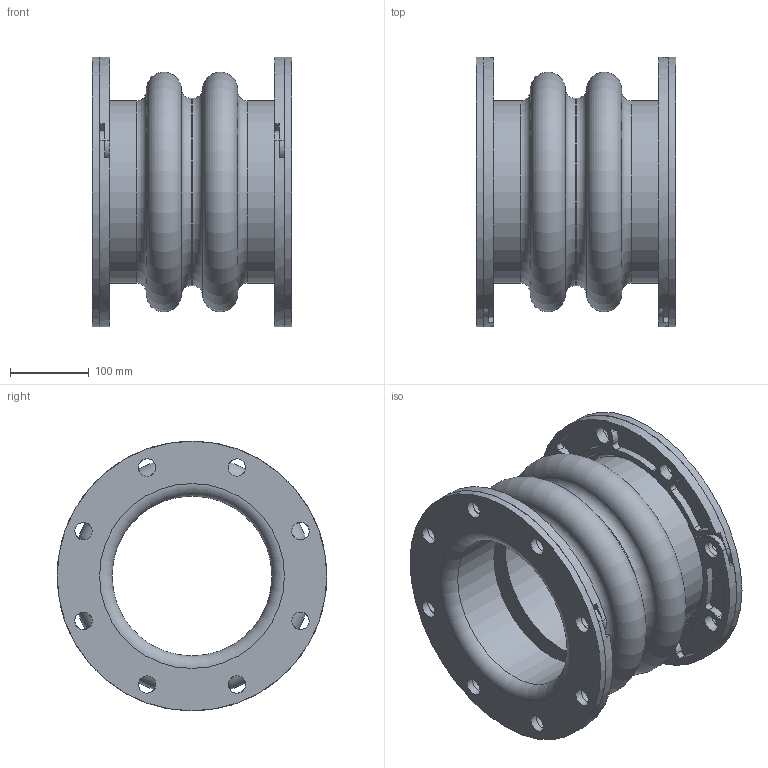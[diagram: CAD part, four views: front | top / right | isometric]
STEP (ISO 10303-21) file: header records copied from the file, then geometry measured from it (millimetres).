
FILE_DESCRIPTION(/* description */ (''),/* implementation_level */ '2;1');
FILE_NAME(/* name */ 'C:\001_Work\Designs\Mercer2014\MQInventor2014\RajR\500 Style\502\STP\502 8IDx10FF.stp',/* time_stamp */ '2016-03-16T14:40:47-04:00',/* author */ ('mquog'),/* organization */ (''),/* preprocessor_version */ 'ST-DEVELOPER v15.2',/* originating_system */ 'Autodesk Inventor 2014',/* authorisation */ '');
FILE_SCHEMA (('AUTOMOTIVE_DESIGN { 1 0 10303 214 3 1 1 }'));
Length unit declared in the file: centimetre
Products named in the file (1): 502 8IDx10FF
Bounding box: 254 x 342.9 x 342.9 mm (x, y, z)
Volume: 5470534.5 mm3; surface area: 1021194.6 mm2
Topology: 3 solids, 3 shells, 276 faces, 728 edges, 472 vertices
Faces by surface type: cylinder 188, plane 60, torus 20, cone 8
Full cylindrical faces by diameter (mm): 22.225 x36, 203.2 x3, 231.775 x2, 238.125 x1, 342.9 x2
Entity records: 8952 total; most frequent: DIRECTION 1618, CARTESIAN_POINT 1581, ORIENTED_EDGE 1320, AXIS2_PLACEMENT_3D 697, EDGE_CURVE 660, VERTEX_POINT 468, EDGE_LOOP 424, CIRCLE 420
